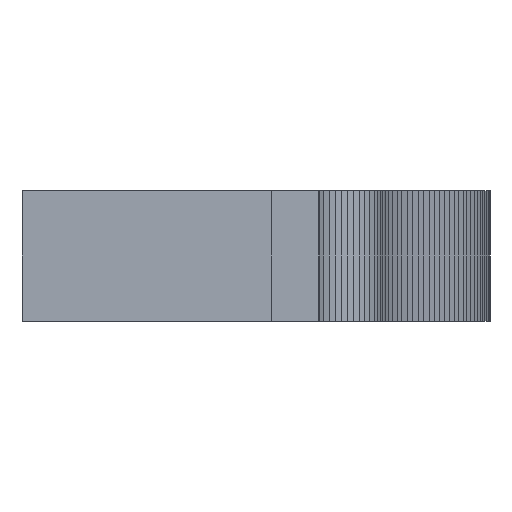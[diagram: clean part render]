
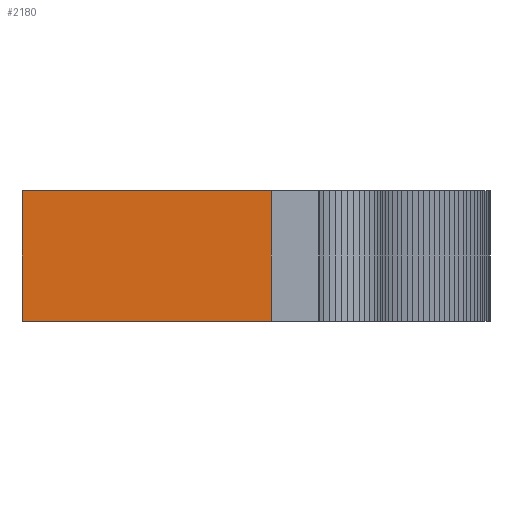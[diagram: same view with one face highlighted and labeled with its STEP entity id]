
A CAD part, front view. The second image highlights one B-rep face of the part: STEP entity #2180.
In plain terms, the highlighted planar face has unit normal (0, -1, 0).
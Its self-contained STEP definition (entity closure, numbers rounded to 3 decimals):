
#11 = CARTESIAN_POINT ( 'NONE',  ( 19.844, 0., 10. ) ) ;
#59 = CARTESIAN_POINT ( 'NONE',  ( 19.844, 0., 0. ) ) ;
#506 = CARTESIAN_POINT ( 'NONE',  ( 0., 0., 10. ) ) ;
#575 = VECTOR ( 'NONE', #3374, 1000. ) ;
#609 = DIRECTION ( 'NONE',  ( 0., 0., -1. ) ) ;
#671 = ORIENTED_EDGE ( 'NONE', *, *, #2173, .F. ) ;
#749 = ORIENTED_EDGE ( 'NONE', *, *, #1010, .T. ) ;
#840 = FACE_OUTER_BOUND ( 'NONE', #1864, .T. ) ;
#1010 = EDGE_CURVE ( 'NONE', #2891, #2378, #1161, .T. ) ;
#1161 = LINE ( 'NONE', #1720, #3422 ) ;
#1167 = CARTESIAN_POINT ( 'NONE',  ( 0., 0., 10. ) ) ;
#1294 = ORIENTED_EDGE ( 'NONE', *, *, #3279, .T. ) ;
#1368 = DIRECTION ( 'NONE',  ( 1., 0., 0. ) ) ;
#1407 = PLANE ( 'NONE',  #2537 ) ;
#1410 = CARTESIAN_POINT ( 'NONE',  ( 0., 0., 0. ) ) ;
#1696 = DIRECTION ( 'NONE',  ( 0., 0., 1. ) ) ;
#1699 = LINE ( 'NONE', #1410, #3301 ) ;
#1720 = CARTESIAN_POINT ( 'NONE',  ( 0., 0., 10. ) ) ;
#1864 = EDGE_LOOP ( 'NONE', ( #1294, #2777, #671, #749 ) ) ;
#2013 = CARTESIAN_POINT ( 'NONE',  ( 0., 0., 10. ) ) ;
#2065 = VECTOR ( 'NONE', #609, 1000. ) ;
#2173 = EDGE_CURVE ( 'NONE', #2891, #3016, #3151, .T. ) ;
#2180 = ADVANCED_FACE ( 'NONE', ( #840 ), #1407, .F. ) ;
#2378 = VERTEX_POINT ( 'NONE', #3205 ) ;
#2510 = VERTEX_POINT ( 'NONE', #59 ) ;
#2537 = AXIS2_PLACEMENT_3D ( 'NONE', #2013, #3191, #1696 ) ;
#2777 = ORIENTED_EDGE ( 'NONE', *, *, #3355, .F. ) ;
#2783 = CARTESIAN_POINT ( 'NONE',  ( 19.844, 0., 10. ) ) ;
#2891 = VERTEX_POINT ( 'NONE', #1167 ) ;
#3016 = VERTEX_POINT ( 'NONE', #2783 ) ;
#3151 = LINE ( 'NONE', #506, #575 ) ;
#3191 = DIRECTION ( 'NONE',  ( 0., 1., 0. ) ) ;
#3205 = CARTESIAN_POINT ( 'NONE',  ( 0., 0., 0. ) ) ;
#3254 = DIRECTION ( 'NONE',  ( 0., 0., -1. ) ) ;
#3255 = LINE ( 'NONE', #11, #2065 ) ;
#3279 = EDGE_CURVE ( 'NONE', #2378, #2510, #1699, .T. ) ;
#3301 = VECTOR ( 'NONE', #1368, 1000. ) ;
#3355 = EDGE_CURVE ( 'NONE', #3016, #2510, #3255, .T. ) ;
#3374 = DIRECTION ( 'NONE',  ( 1., 0., 0. ) ) ;
#3422 = VECTOR ( 'NONE', #3254, 1000. ) ;
